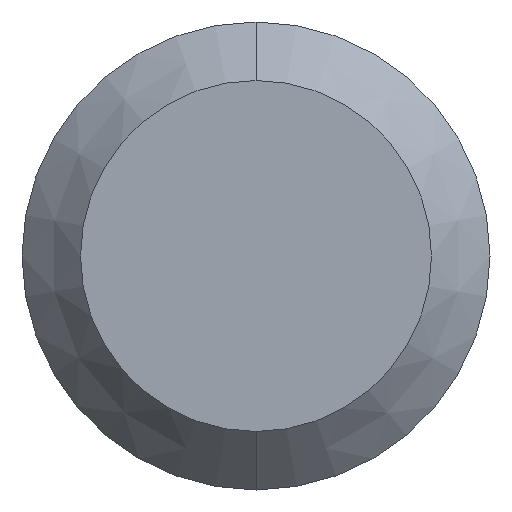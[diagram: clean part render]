
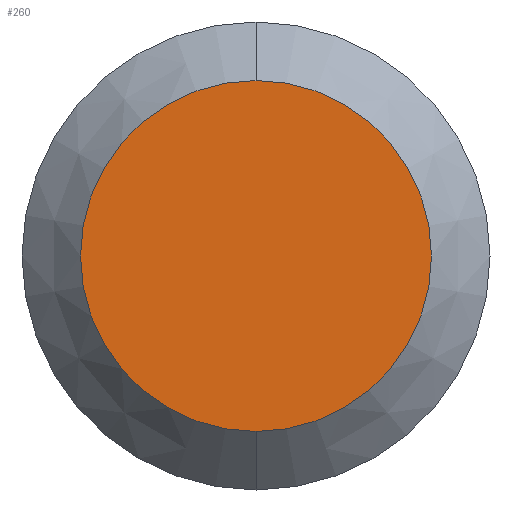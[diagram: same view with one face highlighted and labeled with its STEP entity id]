
A CAD part, front view. The second image highlights one B-rep face of the part: STEP entity #260.
In plain terms, the highlighted planar face has unit normal (0, -1, 0).
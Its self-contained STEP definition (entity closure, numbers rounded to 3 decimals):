
#12 = CARTESIAN_POINT ( 'NONE',  ( 0.567, 0., 0.907 ) ) ;
#28 = EDGE_LOOP ( 'NONE', ( #250, #115 ) ) ;
#43 = AXIS2_PLACEMENT_3D ( 'NONE', #84, #68, #266 ) ;
#55 = CIRCLE ( 'NONE', #233, 1.5 ) ;
#63 = DIRECTION ( 'NONE',  ( 0., 0., 1. ) ) ;
#68 = DIRECTION ( 'NONE',  ( 0., 1., 0. ) ) ;
#69 = EDGE_CURVE ( 'NONE', #72, #193, #55, .T. ) ;
#72 = VERTEX_POINT ( 'NONE', #12 ) ;
#84 = CARTESIAN_POINT ( 'NONE',  ( 0.567, 0., -0.593 ) ) ;
#85 = DIRECTION ( 'NONE',  ( 0., -1., 0. ) ) ;
#107 = FACE_OUTER_BOUND ( 'NONE', #28, .T. ) ;
#115 = ORIENTED_EDGE ( 'NONE', *, *, #131, .T. ) ;
#120 = DIRECTION ( 'NONE',  ( 0., 0., 1. ) ) ;
#131 = EDGE_CURVE ( 'NONE', #193, #72, #192, .T. ) ;
#132 = CARTESIAN_POINT ( 'NONE',  ( 0.567, 0., -0.593 ) ) ;
#150 = PLANE ( 'NONE',  #43 ) ;
#160 = DIRECTION ( 'NONE',  ( 0., -1., 0. ) ) ;
#164 = CARTESIAN_POINT ( 'NONE',  ( 0.567, 0., -2.093 ) ) ;
#192 = CIRCLE ( 'NONE', #219, 1.5 ) ;
#193 = VERTEX_POINT ( 'NONE', #164 ) ;
#219 = AXIS2_PLACEMENT_3D ( 'NONE', #263, #160, #120 ) ;
#233 = AXIS2_PLACEMENT_3D ( 'NONE', #132, #85, #63 ) ;
#250 = ORIENTED_EDGE ( 'NONE', *, *, #69, .T. ) ;
#260 = ADVANCED_FACE ( 'NONE', ( #107 ), #150, .F. ) ;
#263 = CARTESIAN_POINT ( 'NONE',  ( 0.567, 0., -0.593 ) ) ;
#266 = DIRECTION ( 'NONE',  ( 0., 0., 1. ) ) ;
